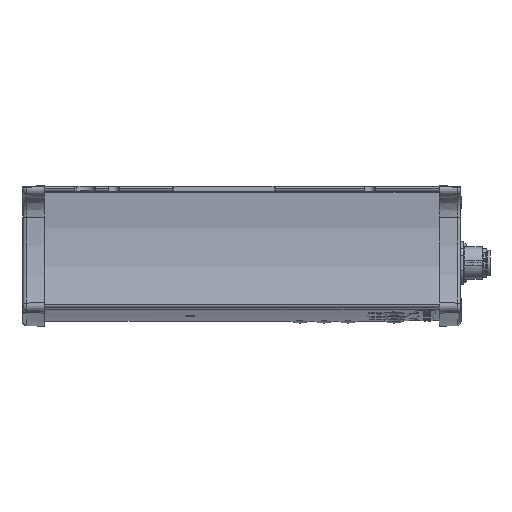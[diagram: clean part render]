
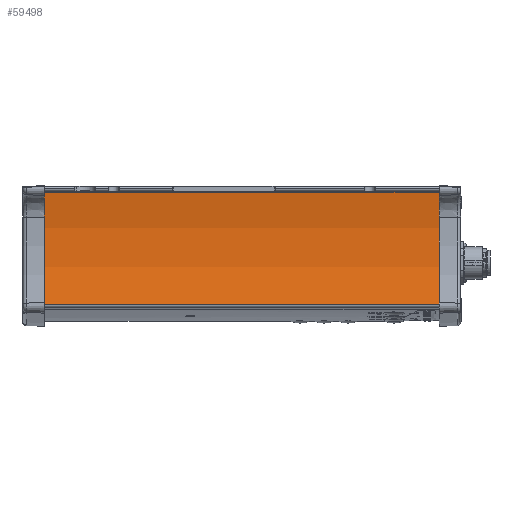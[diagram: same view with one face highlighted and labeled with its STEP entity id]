
A CAD part, left-side view. The second image highlights one B-rep face of the part: STEP entity #59498.
In plain terms, the highlighted cylindrical face has radius 109.9 mm (diameter 219.8 mm), a partial arc.
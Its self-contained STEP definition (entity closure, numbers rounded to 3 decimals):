
#334 = CYLINDRICAL_SURFACE ( 'NONE', #32233, 109.9 ) ;
#16104 = EDGE_CURVE ( 'NONE', #21703, #160978, #60715, .T. ) ;
#21703 = VERTEX_POINT ( 'NONE', #156218 ) ;
#22949 = VECTOR ( 'NONE', #81637, 1000. ) ;
#32233 = AXIS2_PLACEMENT_3D ( 'NONE', #194745, #148151, #215165 ) ;
#33271 = CARTESIAN_POINT ( 'NONE',  ( -79.662, -175., -1.548 ) ) ;
#35491 = DIRECTION ( 'NONE',  ( 0., 1., 0. ) ) ;
#41362 = EDGE_CURVE ( 'NONE', #160978, #214001, #98786, .T. ) ;
#49117 = DIRECTION ( 'NONE',  ( 0., 0., 1. ) ) ;
#51576 = FACE_OUTER_BOUND ( 'NONE', #60887, .T. ) ;
#58009 = AXIS2_PLACEMENT_3D ( 'NONE', #64268, #182527, #133595 ) ;
#59498 = ADVANCED_FACE ( 'NONE', ( #51576 ), #334, .F. ) ;
#60715 = CIRCLE ( 'NONE', #129756, 109.9 ) ;
#60887 = EDGE_LOOP ( 'NONE', ( #211479, #181845, #217816, #195367 ) ) ;
#61186 = CARTESIAN_POINT ( 'NONE',  ( -81.929, -175., -49.24 ) ) ;
#64268 = CARTESIAN_POINT ( 'NONE',  ( -187.95, -1., -20.3 ) ) ;
#69487 = VERTEX_POINT ( 'NONE', #187161 ) ;
#81637 = DIRECTION ( 'NONE',  ( 0., 1., 0. ) ) ;
#98786 = LINE ( 'NONE', #61186, #22949 ) ;
#117682 = DIRECTION ( 'NONE',  ( 0., 1., 0. ) ) ;
#129756 = AXIS2_PLACEMENT_3D ( 'NONE', #190171, #35491, #49117 ) ;
#133595 = DIRECTION ( 'NONE',  ( 0., 0., 1. ) ) ;
#134089 = CARTESIAN_POINT ( 'NONE',  ( -81.929, -175., -49.24 ) ) ;
#139585 = EDGE_CURVE ( 'NONE', #21703, #69487, #203858, .T. ) ;
#147805 = EDGE_CURVE ( 'NONE', #69487, #214001, #217642, .T. ) ;
#148151 = DIRECTION ( 'NONE',  ( 0., 1., 0. ) ) ;
#156218 = CARTESIAN_POINT ( 'NONE',  ( -79.662, -175., -1.548 ) ) ;
#160978 = VERTEX_POINT ( 'NONE', #134089 ) ;
#176936 = VECTOR ( 'NONE', #117682, 1000. ) ;
#181845 = ORIENTED_EDGE ( 'NONE', *, *, #41362, .F. ) ;
#182527 = DIRECTION ( 'NONE',  ( 0., 1., 0. ) ) ;
#183439 = CARTESIAN_POINT ( 'NONE',  ( -81.929, -1., -49.24 ) ) ;
#187161 = CARTESIAN_POINT ( 'NONE',  ( -79.662, -1., -1.548 ) ) ;
#190171 = CARTESIAN_POINT ( 'NONE',  ( -187.95, -175., -20.3 ) ) ;
#194745 = CARTESIAN_POINT ( 'NONE',  ( -187.95, -175., -20.3 ) ) ;
#195367 = ORIENTED_EDGE ( 'NONE', *, *, #139585, .T. ) ;
#203858 = LINE ( 'NONE', #33271, #176936 ) ;
#211479 = ORIENTED_EDGE ( 'NONE', *, *, #147805, .T. ) ;
#214001 = VERTEX_POINT ( 'NONE', #183439 ) ;
#215165 = DIRECTION ( 'NONE',  ( 0., 0., -1. ) ) ;
#217642 = CIRCLE ( 'NONE', #58009, 109.9 ) ;
#217816 = ORIENTED_EDGE ( 'NONE', *, *, #16104, .F. ) ;
